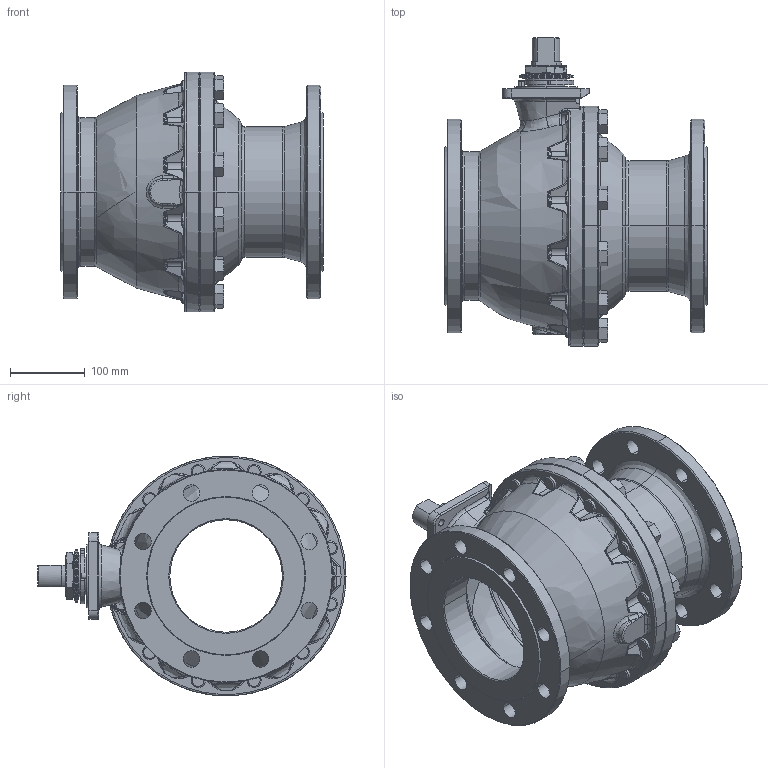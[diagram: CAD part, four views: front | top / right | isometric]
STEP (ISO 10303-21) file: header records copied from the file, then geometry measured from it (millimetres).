
FILE_DESCRIPTION (( 'STEP AP214' ), '1' );
FILE_NAME ('FIG 516 - DN150 eje libre.STEP', '2016-10-03T18:16:54', ( '' ), ( '' ), 'SwSTEP 2.0', 'SolidWorks 2016', '' );
FILE_SCHEMA (( 'AUTOMOTIVE_DESIGN' ));
Length unit declared in the file: millimetre
Products named in the file (14): 200150_41; 0516150C; 5183_07; 5183_10-1; P150G (50x40x7)_Comprimida; JT150FV (50x40x2); EPI150Q; DIN 6325 - Ø8x20; 5283_46; 5183_08; 00830920; BOLT UNC 3_4-10x1.3_4_UNC 3_4-10x2.3_4; 0516150L; FIG 516 - DN150 eje libre
Assembly tree (27 placements, depth 2):
  FIG 516 - DN150 eje libre
    0516150C
    0516150L
    EPI150Q
    P150G (50x40x7)_Comprimida  x3
    5183_10-1
    JT150FV (50x40x2)
    00830920
    200150_41
    5183_08  x2
    5283_46
    5183_07
    DIN 6325 - Ø8x20
    BOLT UNC 3_4-10x1.3_4_UNC 3_4-10x2.3_4  x12
Bounding box: 350 x 411 x 320 mm (x, y, z)
Volume: 6650279.7 mm3; surface area: 998469 mm2
Topology: 27 solids, 27 shells, 1138 faces, 2735 edges, 1619 vertices
Faces by surface type: cylinder 318, plane 308, bspline 286, cone 197, torus 25, sphere 4
Entity records: 62802 total; most frequent: CARTESIAN_POINT 44889, ORIENTED_EDGE 3948, DIRECTION 3052, EDGE_CURVE 1974, AXIS2_PLACEMENT_3D 1268, VERTEX_POINT 1221, EDGE_LOOP 929, FACE_OUTER_BOUND 799
